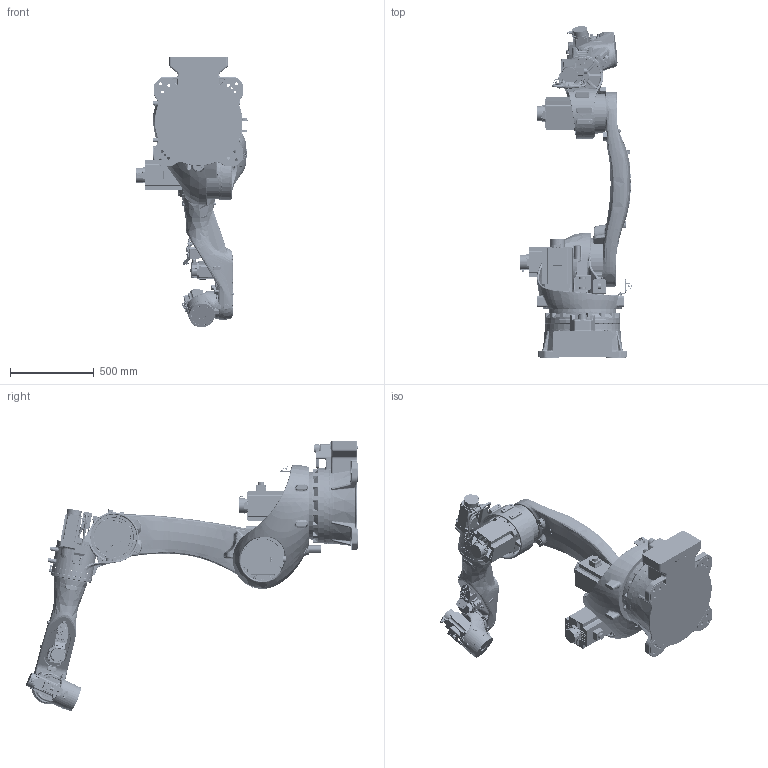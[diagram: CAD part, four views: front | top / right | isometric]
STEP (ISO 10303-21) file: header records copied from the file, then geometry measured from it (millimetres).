
FILE_DESCRIPTION (( 'STEP AP203' ), '1' );
FILE_NAME ('CRP-RA22-80.STEP', '2022-10-11T03:46:38', ( 'Microsoft' ), ( 'Microsoft' ), 'SwSTEP 2.0', 'SolidWorks 2016', '' );
FILE_SCHEMA (( 'CONFIG_CONTROL_DESIGN' ));
Products named in the file (8): CR220600 勂窒郪璃; CR220100 菁釱郪璃; CRP-RA22-80; CR220200 殈窒郪璃; CR220400 紵窒郪璃; CR220300 湮旋郪璃; CR220601 藺傷楊擘; CR220500 苤旋郪璃
Assembly tree (7 placements, depth 2):
  CRP-RA22-80
    CR220100 菁釱郪璃
    CR220200 殈窒郪璃
    CR220300 湮旋郪璃
    CR220400 紵窒郪璃
    CR220500 苤旋郪璃
    CR220600 勂窒郪璃
    CR220601 藺傷楊擘
Bounding box: 665.83 x 1987.4 x 1620.95 mm (x, y, z)
Surface area: 8673222.5 mm2 (no closed solid volume)
Topology: 0 solids, 400 shells, 9082 faces, 31603 edges, 22096 vertices
Faces by surface type: cylinder 3001, plane 2707, bspline 2297, torus 532, cone 387, sphere 158
Entity records: 669913 total; most frequent: CARTESIAN_POINT 425874, ORIENTED_EDGE 50822, DIRECTION 43423, EDGE_CURVE 31248, VERTEX_POINT 22064, AXIS2_PLACEMENT_3D 14803, VECTOR 13817, LINE 13817
